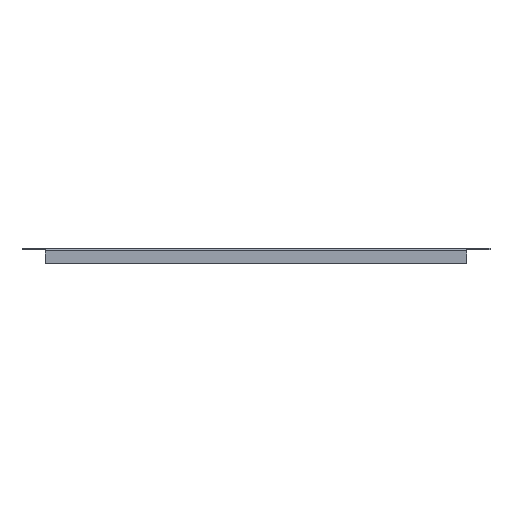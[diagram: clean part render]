
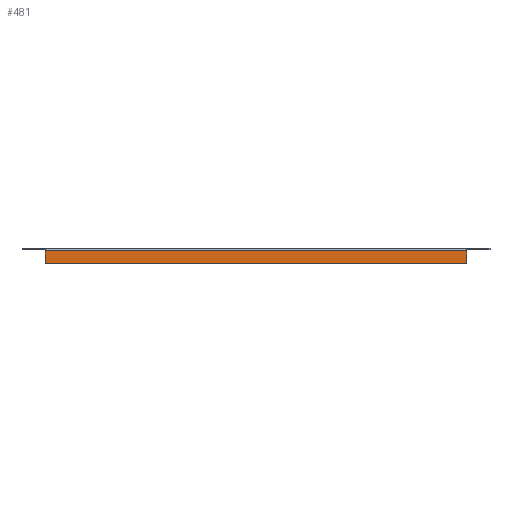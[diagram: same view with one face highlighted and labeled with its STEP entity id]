
A CAD part, front view. The second image highlights one B-rep face of the part: STEP entity #481.
In plain terms, the highlighted planar face has unit normal (0, -1, 0).
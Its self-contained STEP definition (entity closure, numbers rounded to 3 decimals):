
#303 = CARTESIAN_POINT ( 'NONE',  ( 209.5, -224.5, 0. ) ) ;
#305 = PLANE ( 'NONE',  #886 ) ;
#307 = DIRECTION ( 'NONE',  ( 0., 1., 0. ) ) ;
#340 = DIRECTION ( 'NONE',  ( 0., 0., 1. ) ) ;
#481 = ADVANCED_FACE ( 'NONE', ( #1227 ), #305, .F. ) ;
#615 = DIRECTION ( 'NONE',  ( 1., 0., 0. ) ) ;
#619 = CARTESIAN_POINT ( 'NONE',  ( 209.5, -224.5, -1.2 ) ) ;
#620 = CARTESIAN_POINT ( 'NONE',  ( 209.5, -224.5, 0. ) ) ;
#628 = CARTESIAN_POINT ( 'NONE',  ( 209.5, -224.5, -13.8 ) ) ;
#630 = DIRECTION ( 'NONE',  ( 0., 0., -1. ) ) ;
#633 = CARTESIAN_POINT ( 'NONE',  ( -209.5, -224.5, -13.8 ) ) ;
#635 = DIRECTION ( 'NONE',  ( 0., 0., 1. ) ) ;
#638 = CARTESIAN_POINT ( 'NONE',  ( 209.5, -224.5, -13.8 ) ) ;
#640 = DIRECTION ( 'NONE',  ( -1., 0., 0. ) ) ;
#670 = CARTESIAN_POINT ( 'NONE',  ( -209.5, -224.5, -1.2 ) ) ;
#672 = CARTESIAN_POINT ( 'NONE',  ( 209.5, -224.5, -1.2 ) ) ;
#675 = CARTESIAN_POINT ( 'NONE',  ( -209.5, -224.5, -13.8 ) ) ;
#823 = EDGE_CURVE ( 'NONE', #1304, #1308, #1036, .T. ) ;
#826 = EDGE_CURVE ( 'NONE', #1308, #1303, #1035, .T. ) ;
#828 = EDGE_CURVE ( 'NONE', #1312, #1304, #1027, .T. ) ;
#831 = EDGE_CURVE ( 'NONE', #1303, #1312, #1025, .T. ) ;
#886 = AXIS2_PLACEMENT_3D ( 'NONE', #303, #307, #340 ) ;
#1018 = VECTOR ( 'NONE', #640, 1000. ) ;
#1024 = VECTOR ( 'NONE', #635, 1000. ) ;
#1025 = LINE ( 'NONE', #628, #1018 ) ;
#1027 = LINE ( 'NONE', #633, #1024 ) ;
#1028 = VECTOR ( 'NONE', #630, 1000. ) ;
#1034 = VECTOR ( 'NONE', #615, 1000. ) ;
#1035 = LINE ( 'NONE', #620, #1028 ) ;
#1036 = LINE ( 'NONE', #619, #1034 ) ;
#1227 = FACE_OUTER_BOUND ( 'NONE', #1677, .T. ) ;
#1303 = VERTEX_POINT ( 'NONE', #638 ) ;
#1304 = VERTEX_POINT ( 'NONE', #670 ) ;
#1308 = VERTEX_POINT ( 'NONE', #672 ) ;
#1312 = VERTEX_POINT ( 'NONE', #675 ) ;
#1427 = ORIENTED_EDGE ( 'NONE', *, *, #826, .F. ) ;
#1428 = ORIENTED_EDGE ( 'NONE', *, *, #831, .F. ) ;
#1429 = ORIENTED_EDGE ( 'NONE', *, *, #828, .F. ) ;
#1430 = ORIENTED_EDGE ( 'NONE', *, *, #823, .F. ) ;
#1677 = EDGE_LOOP ( 'NONE', ( #1430, #1429, #1428, #1427 ) ) ;
